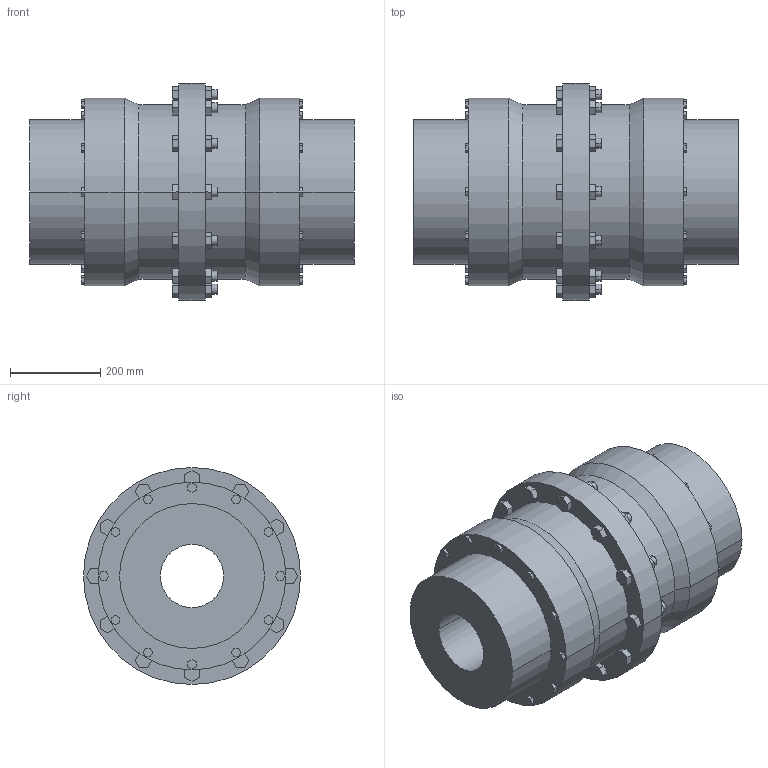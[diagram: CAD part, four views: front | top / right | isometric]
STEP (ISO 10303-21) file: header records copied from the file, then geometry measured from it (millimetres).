
FILE_DESCRIPTION((''),'2;1');
FILE_NAME('A19716000-0_ASM','2019-05-23T',('AB_Roschiwal'),('RENK AG'),'PRO/ENGINEER BY PARAMETRIC TECHNOLOGY CORPORATION, 2015440','PRO/ENGINEER BY PARAMETRIC TECHNOLOGY CORPORATION, 2015440','');
FILE_SCHEMA(('CONFIG_CONTROL_DESIGN'));
Length unit declared in the file: millimetre
Products named in the file (3): SBK200_GEHAEUSE; SBK200_NABE; A19716000-0_ASM
Assembly tree (3 placements, depth 2):
  A19716000-0_ASM
    SBK200_GEHAEUSE
    SBK200_NABE  x2
Bounding box: 718 x 480 x 480 mm (x, y, z)
Volume: 53078085.6 mm3; surface area: 2505086.7 mm2
Topology: 3 solids, 3 shells, 422 faces, 1036 edges, 688 vertices
Faces by surface type: plane 362, cylinder 56, cone 4
Entity records: 12052 total; most frequent: CARTESIAN_POINT 2100, ORIENTED_EDGE 2024, DIRECTION 1940, EDGE_CURVE 1012, VECTOR 916, LINE 916, VERTEX_POINT 672, AXIS2_PLACEMENT_3D 512
